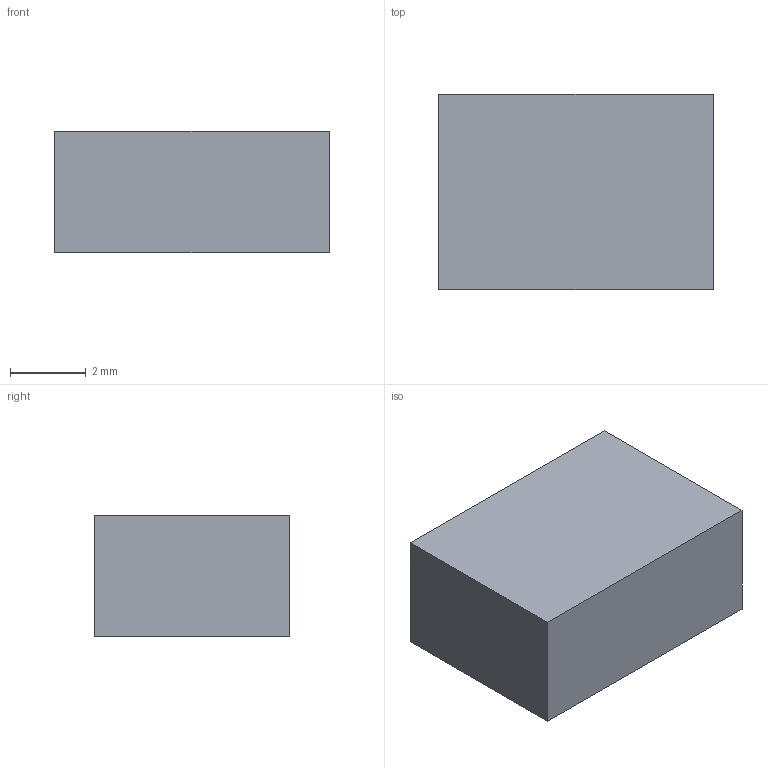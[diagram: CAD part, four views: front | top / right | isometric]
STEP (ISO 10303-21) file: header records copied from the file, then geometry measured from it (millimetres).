
FILE_DESCRIPTION(('Open CASCADE Model'),'2;1');
FILE_NAME('Open CASCADE Shape Model','2026-09-24T15:56:08',('Author'),( 'Open CASCADE'),'Open CASCADE STEP processor 7.8','Open CASCADE 7.8' ,'Unknown');
FILE_SCHEMA(('AUTOMOTIVE_DESIGN { 1 0 10303 214 1 1 1 1 }'));
Length unit declared in the file: millimetre
Products named in the file (1): Open CASCADE STEP translator 7.8 4
Bounding box: 7.25 x 5.15 x 3.2 mm (x, y, z)
Volume: 119.5 mm3; surface area: 154 mm2
Topology: 1 solids, 1 shells, 6 faces, 12 edges, 8 vertices
Faces by surface type: plane 6
Entity records: 322 total; most frequent: CARTESIAN_POINT 51, DIRECTION 50, LINE 36, VECTOR 36, ORIENTED_EDGE 24, PCURVE 24, DEFINITIONAL_REPRESENTATION 24, EDGE_CURVE 12
